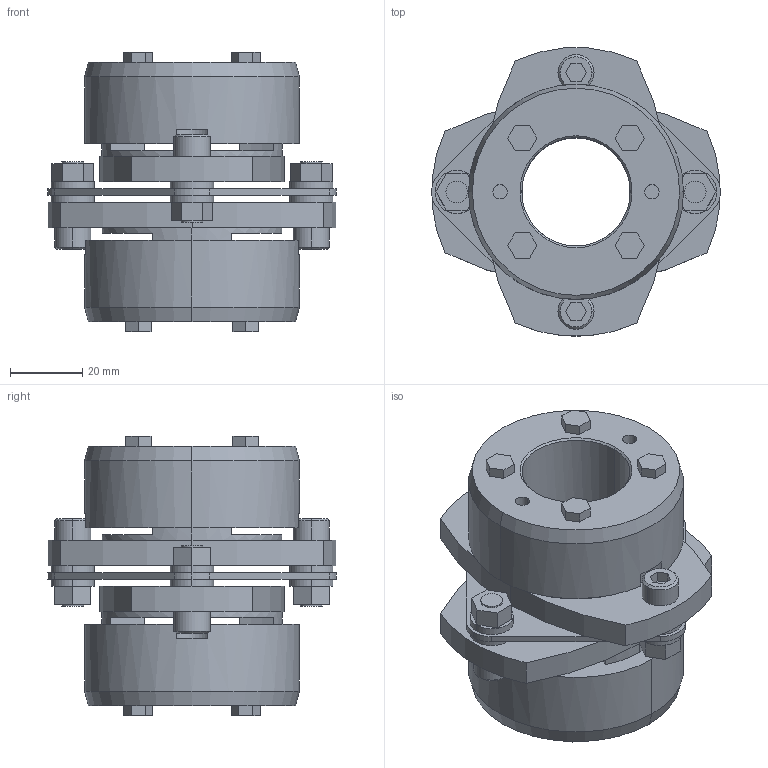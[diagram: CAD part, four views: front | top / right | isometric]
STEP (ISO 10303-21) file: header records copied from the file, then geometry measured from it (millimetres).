
FILE_DESCRIPTION((''),'2;1');
FILE_NAME('LCS-80T7-30×30.stp','2011-09-12T16:59:11',(''),(''),'AutoCAD STEP 2000i','AutoCAD 2000i',', , ');
FILE_SCHEMA(('CONFIG_CONTROL_DESIGN'));
Length unit declared in the file: millimetre
Products named in the file (11): LCS-80T7-30×30; 忣兜1; LC80T7-T030-1; LC80T7-T030; LC80T7-T028; LC80T7-T024; LC80T7-T022; LC80T7-T019; LC80T7-T017-1; LC80T7-T017; LCS80-ITA
Assembly tree (10 placements, depth 2):
  LCS-80T7-30×30
    忣兜1
    LC80T7-T030-1
    LC80T7-T030
    LC80T7-T028
    LC80T7-T024
    LC80T7-T022
    LC80T7-T019
    LC80T7-T017-1
    LC80T7-T017
    LCS80-ITA
Bounding box: 80 x 79.95 x 77.35 mm (x, y, z)
Volume: 146553.8 mm3; surface area: 43574 mm2
Topology: 1 solids, 1 shells, 254 faces, 628 edges, 412 vertices
Faces by surface type: plane 150, cylinder 84, cone 20
Entity records: 7815 total; most frequent: DIRECTION 1370, CARTESIAN_POINT 1305, ORIENTED_EDGE 1256, EDGE_CURVE 628, AXIS2_PLACEMENT_3D 477, VECTOR 416, LINE 416, VERTEX_POINT 412
